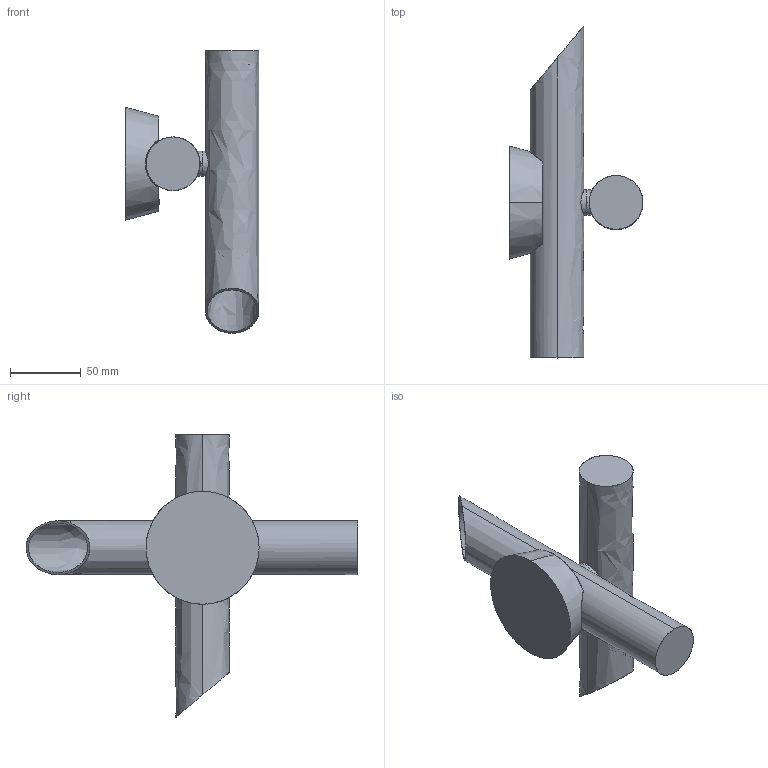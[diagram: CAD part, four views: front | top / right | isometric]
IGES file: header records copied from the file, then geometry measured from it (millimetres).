
Start section: SolidWorks IGES file using analytic representation for surfaces
Global section: file name: C:\Users\tungari.NEMOLIGHTING\Desktop\3D\WALL\3D_TUBES_2_WALL\DEF\3D_TUBES_2_WALL.IGS; native system: SolidWorks 2016; preprocessor: SolidWorks 2016; author: tungari; date: 180302.104601; units: millimetre
Bounding box: 94.8 x 235 x 200 mm (x, y, z)
Surface area: 112310.7 mm2 (no closed solid volume)
Topology: 0 solids, 0 shells, 103 faces, 1933 edges, 1929 vertices
Faces by surface type: bspline 73, revolution 30
